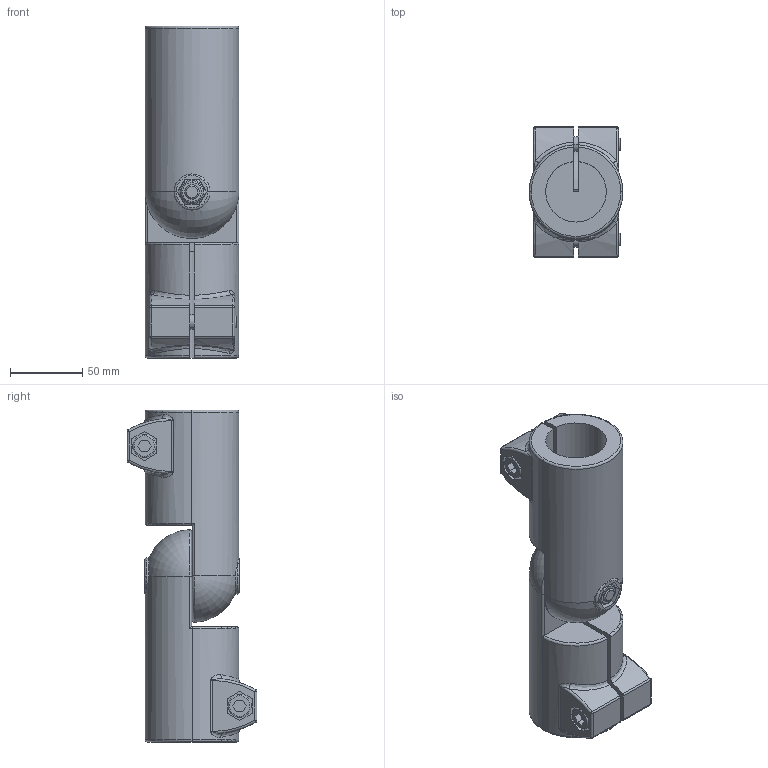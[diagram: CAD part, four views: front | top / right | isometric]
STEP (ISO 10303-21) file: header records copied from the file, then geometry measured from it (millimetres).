
FILE_DESCRIPTION (( 'STEP AP214' ), '1' );
FILE_NAME ('286-B42-B45-S-2-BL.step', '2021-12-02T12:15:30', ( '' ), ( '' ), 'SwSTEP 2.0', 'SolidWorks 2019', '' );
FILE_SCHEMA (( 'AUTOMOTIVE_DESIGN' ));
Length unit declared in the file: millimetre
Products named in the file (3): 286-B42-B45-S-2-BL; WB276_1^WB286_B45-MZ-2-BL; WB276^WB286_B42-IV-2-BL
Assembly tree (2 placements, depth 2):
  286-B42-B45-S-2-BL
    WB276^WB286_B42-IV-2-BL
    WB276_1^WB286_B45-MZ-2-BL
Bounding box: 65 x 90 x 230 mm (x, y, z)
Volume: 538222.1 mm3; surface area: 109741.8 mm2
Topology: 2 solids, 2 shells, 401 faces, 968 edges, 590 vertices
Faces by surface type: plane 195, cylinder 108, torus 46, cone 24, bspline 20, sphere 8
Entity records: 15770 total; most frequent: CARTESIAN_POINT 5474, ORIENTED_EDGE 1920, DIRECTION 1880, EDGE_CURVE 960, AXIS2_PLACEMENT_3D 738, VERTEX_POINT 590, EDGE_LOOP 434, LINE 404
